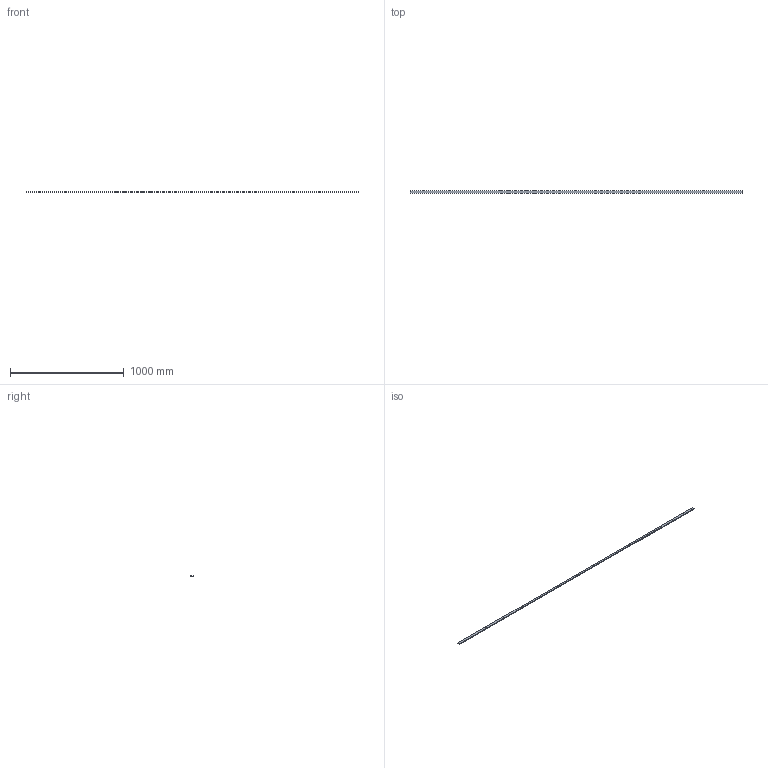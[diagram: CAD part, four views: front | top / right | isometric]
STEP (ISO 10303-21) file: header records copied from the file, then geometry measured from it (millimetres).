
FILE_DESCRIPTION( ( '' ), '1' );
FILE_NAME( 'C:/Documents and Settings/Nikhil/Desktop/Nik/Done/9120134.stp', '2013-10-23T07:53:57', ( '' ), ( '' ), ' ', ' ', ' ' );
FILE_SCHEMA( ( 'automotive_design' ) );
Length unit declared in the file: millimetre
Products named in the file (1): 1
Bounding box: 2924 x 20 x 7.87 mm (x, y, z)
Volume: 409722.1 mm3; surface area: 159396.4 mm2
Topology: 1 solids, 1 shells, 49 faces, 102 edges, 68 vertices
Faces by surface type: cylinder 27, plane 22
Entity records: 2596 total; most frequent: DIRECTION 256, STYLED_ITEM 220, PRESENTATION_STYLE_ASSIGNMENT 220, CARTESIAN_POINT 220, COLOUR_RGB 220, ORIENTED_EDGE 204, AXIS2_PLACEMENT_3D 104, EDGE_CURVE 102
